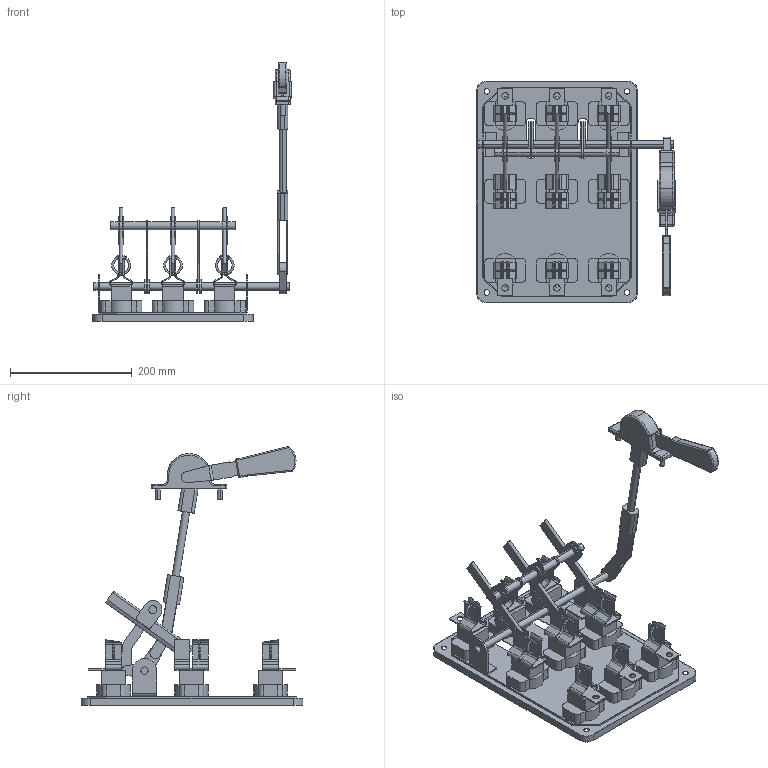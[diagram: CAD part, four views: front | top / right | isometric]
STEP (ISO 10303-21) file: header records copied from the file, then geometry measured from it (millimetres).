
FILE_DESCRIPTION (( 'STEP AP214' ), '1' );
FILE_NAME ('Ðàçúåäèíèòåëü ÐÏÑ-2Ï-250À-áåçÏÂ-Ó3-ÊÝÀÇ.STEP', '2023-05-01T20:16:29', ( '' ), ( '' ), 'SwSTEP 2.0', 'SolidWorks 2018', '' );
FILE_SCHEMA (( 'AUTOMOTIVE_DESIGN' ));
Length unit declared in the file: millimetre
Products named in the file (1): Ðàçúåäèíèòåëü ÐÏÑ-2Ï-250À-áåçÏÂ-Ó3-ÊÝÀÇ
Bounding box: 326.5 x 364 x 424.53 mm (x, y, z)
Volume: 1609331 mm3; surface area: 550023.7 mm2
Topology: 9 solids, 9 shells, 1125 faces, 3102 edges, 2005 vertices
Faces by surface type: plane 616, cylinder 411, torus 84, sphere 14
Entity records: 50446 total; most frequent: CARTESIAN_POINT 8585, ORIENTED_EDGE 6188, DIRECTION 6179, EDGE_CURVE 3094, AXIS2_PLACEMENT_3D 2115, VERTEX_POINT 2003, VECTOR 1949, LINE 1949
